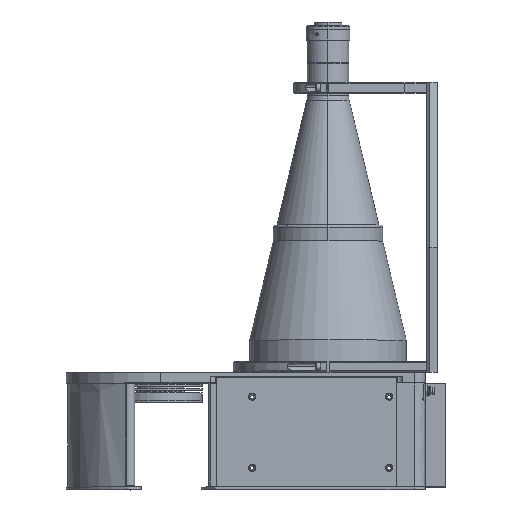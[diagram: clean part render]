
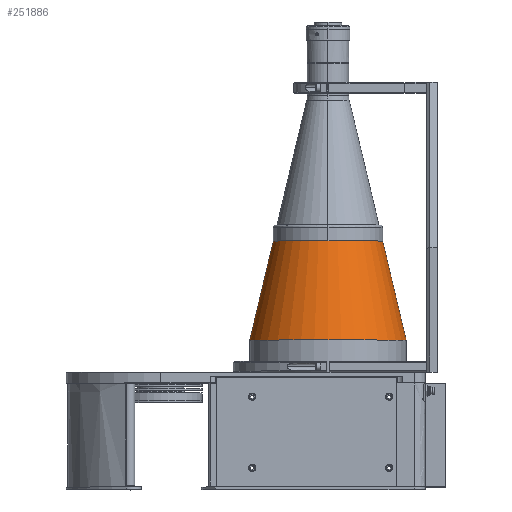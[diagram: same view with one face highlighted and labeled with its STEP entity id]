
A CAD part, top view. The second image highlights one B-rep face of the part: STEP entity #251886.
In plain terms, the highlighted face is a revolution surface.
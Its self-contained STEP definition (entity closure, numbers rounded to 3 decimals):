
#251886 = ADVANCED_FACE('',(#251887),#251901,.T.);
#251887 = FACE_BOUND('',#251888,.T.);
#251888 = EDGE_LOOP('',(#251889,#251914,#251930,#251945));
#251889 = ORIENTED_EDGE('',*,*,#251890,.F.);
#251890 = EDGE_CURVE('',#251891,#251893,#251895,.T.);
#251891 = VERTEX_POINT('',#251892);
#251892 = CARTESIAN_POINT('',(71.5,93.6,0.));
#251893 = VERTEX_POINT('',#251894);
#251894 = CARTESIAN_POINT('',(50.,184.14,0.));
#251895 = SURFACE_CURVE('',#251896,(#251900),.PCURVE_S1.);
#251896 = LINE('',#251897,#251898);
#251897 = CARTESIAN_POINT('',(71.5,93.6,0.));
#251898 = VECTOR('',#251899,1.);
#251899 = DIRECTION('',(-0.231,0.973,0.));
#251900 = PCURVE('',#251901,#251909);
#251901 = SURFACE_OF_REVOLUTION('',#251902,#251906);
#251902 = LINE('',#251903,#251904);
#251903 = CARTESIAN_POINT('',(50.,184.14,0.));
#251904 = VECTOR('',#251905,1.);
#251905 = DIRECTION('',(0.231,-0.973,
    0.));
#251906 = AXIS1_PLACEMENT('',#251907,#251908);
#251907 = CARTESIAN_POINT('',(0.,1184.14,0.));
#251908 = DIRECTION('',(0.,1.,0.));
#251909 = DEFINITIONAL_REPRESENTATION('',(#251910),#251913);
#251910 = B_SPLINE_CURVE_WITH_KNOTS('',1,(#251911,#251912),
  .UNSPECIFIED.,.F.,.F.,(2,2),(0.,93.058),
  .PIECEWISE_BEZIER_KNOTS.);
#251911 = CARTESIAN_POINT('',(6.283,93.058));
#251912 = CARTESIAN_POINT('',(6.283,0.));
#251913 = ( GEOMETRIC_REPRESENTATION_CONTEXT(2) 
PARAMETRIC_REPRESENTATION_CONTEXT() REPRESENTATION_CONTEXT('',''
  ) );
#251914 = ORIENTED_EDGE('',*,*,#251915,.F.);
#251915 = EDGE_CURVE('',#251916,#251891,#251918,.T.);
#251916 = VERTEX_POINT('',#251917);
#251917 = CARTESIAN_POINT('',(-71.5,93.6,0.)
  );
#251918 = SURFACE_CURVE('',#251919,(#251924),.PCURVE_S1.);
#251919 = CIRCLE('',#251920,71.5);
#251920 = AXIS2_PLACEMENT_3D('',#251921,#251922,#251923);
#251921 = CARTESIAN_POINT('',(0.,93.6,
    0.));
#251922 = DIRECTION('',(0.,1.,0.));
#251923 = DIRECTION('',(-1.,0.,0.));
#251924 = PCURVE('',#251901,#251925);
#251925 = DEFINITIONAL_REPRESENTATION('',(#251926),#251929);
#251926 = B_SPLINE_CURVE_WITH_KNOTS('',1,(#251927,#251928),
  .UNSPECIFIED.,.F.,.F.,(2,2),(0.,3.142),
  .PIECEWISE_BEZIER_KNOTS.);
#251927 = CARTESIAN_POINT('',(3.142,93.058));
#251928 = CARTESIAN_POINT('',(6.283,93.058));
#251929 = ( GEOMETRIC_REPRESENTATION_CONTEXT(2) 
PARAMETRIC_REPRESENTATION_CONTEXT() REPRESENTATION_CONTEXT('',''
  ) );
#251930 = ORIENTED_EDGE('',*,*,#251931,.F.);
#251931 = EDGE_CURVE('',#251932,#251916,#251934,.T.);
#251932 = VERTEX_POINT('',#251933);
#251933 = CARTESIAN_POINT('',(-50.,184.14,0.));
#251934 = SURFACE_CURVE('',#251935,(#251939),.PCURVE_S1.);
#251935 = LINE('',#251936,#251937);
#251936 = CARTESIAN_POINT('',(-50.,184.14,0.));
#251937 = VECTOR('',#251938,1.);
#251938 = DIRECTION('',(-0.231,-0.973,0.));
#251939 = PCURVE('',#251901,#251940);
#251940 = DEFINITIONAL_REPRESENTATION('',(#251941),#251944);
#251941 = B_SPLINE_CURVE_WITH_KNOTS('',1,(#251942,#251943),
  .UNSPECIFIED.,.F.,.F.,(2,2),(0.,93.058),
  .PIECEWISE_BEZIER_KNOTS.);
#251942 = CARTESIAN_POINT('',(3.142,0.));
#251943 = CARTESIAN_POINT('',(3.142,93.058));
#251944 = ( GEOMETRIC_REPRESENTATION_CONTEXT(2) 
PARAMETRIC_REPRESENTATION_CONTEXT() REPRESENTATION_CONTEXT('',''
  ) );
#251945 = ORIENTED_EDGE('',*,*,#251946,.F.);
#251946 = EDGE_CURVE('',#251893,#251932,#251947,.T.);
#251947 = SURFACE_CURVE('',#251948,(#251953),.PCURVE_S1.);
#251948 = CIRCLE('',#251949,50.);
#251949 = AXIS2_PLACEMENT_3D('',#251950,#251951,#251952);
#251950 = CARTESIAN_POINT('',(0.,184.14,
    0.));
#251951 = DIRECTION('',(0.,-1.,0.));
#251952 = DIRECTION('',(1.,0.,0.));
#251953 = PCURVE('',#251901,#251954);
#251954 = DEFINITIONAL_REPRESENTATION('',(#251955),#251958);
#251955 = B_SPLINE_CURVE_WITH_KNOTS('',1,(#251956,#251957),
  .UNSPECIFIED.,.F.,.F.,(2,2),(0.,3.142),
  .PIECEWISE_BEZIER_KNOTS.);
#251956 = CARTESIAN_POINT('',(6.283,0.));
#251957 = CARTESIAN_POINT('',(3.142,0.));
#251958 = ( GEOMETRIC_REPRESENTATION_CONTEXT(2) 
PARAMETRIC_REPRESENTATION_CONTEXT() REPRESENTATION_CONTEXT('',''
  ) );
